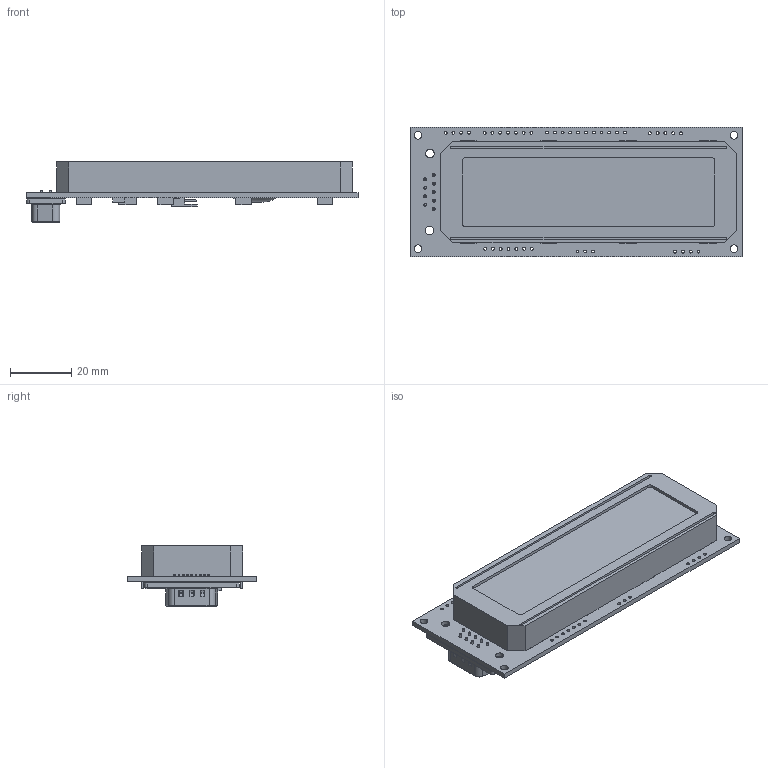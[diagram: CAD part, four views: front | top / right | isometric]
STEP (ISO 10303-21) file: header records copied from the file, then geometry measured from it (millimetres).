
FILE_DESCRIPTION (( 'STEP AP214' ), '1' );
FILE_NAME ('CFA632 full assembly.STEP', '2025-01-09T16:21:25', ( '' ), ( '' ), 'SwSTEP 2.0', 'SolidWorks 2021', '' );
FILE_SCHEMA (( 'AUTOMOTIVE_DESIGN' ));
Length unit declared in the file: millimetre
Products named in the file (6): CFA632 full assembly; D-SUB_9; CFA632_3_3_BOARD; 95000-004LF CFAPN01890; Display and bezel; CFA632_3_3
Assembly tree (5 placements, depth 3):
  CFA632 full assembly
    Display and bezel
    CFA632_3_3
      CFA632_3_3_BOARD
    D-SUB_9
    95000-004LF CFAPN01890
Bounding box: 108.2 x 42.2 x 19.63 mm (x, y, z)
Volume: 38288.8 mm3; surface area: 21789.6 mm2
Topology: 12 solids, 12 shells, 1336 faces, 3413 edges, 2194 vertices
Faces by surface type: plane 563, cylinder 388, bspline 286, torus 86, sphere 9, cone 4
Entity records: 63732 total; most frequent: CARTESIAN_POINT 23347, ORIENTED_EDGE 6772, DIRECTION 5790, EDGE_CURVE 3386, VERTEX_POINT 2176, AXIS2_PLACEMENT_3D 1937, VECTOR 1916, LINE 1916
